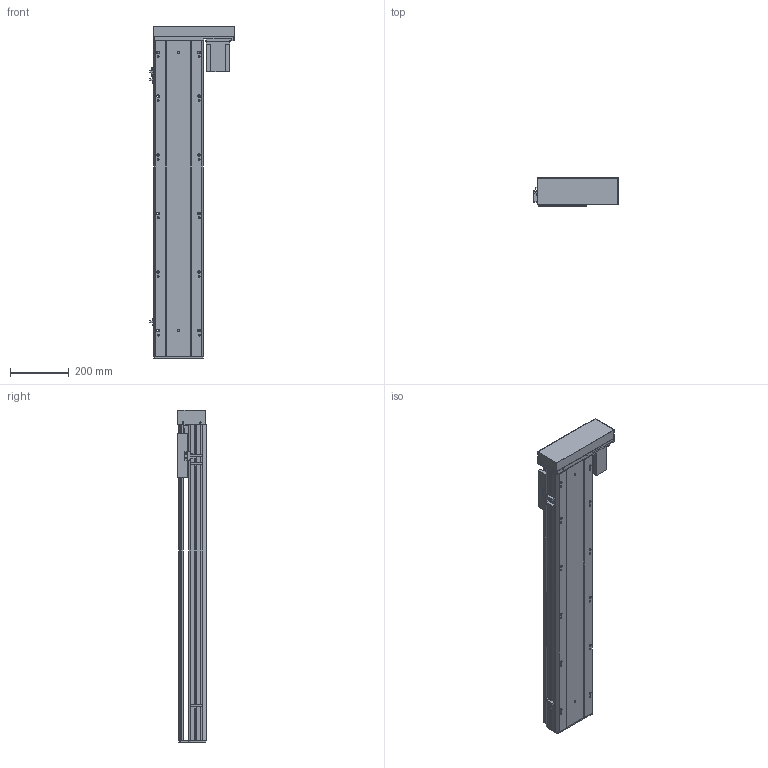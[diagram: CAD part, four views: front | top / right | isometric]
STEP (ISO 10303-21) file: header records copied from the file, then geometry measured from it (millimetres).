
FILE_DESCRIPTION (( 'STEP AP203' ), '1' );
FILE_NAME ('Y170-D10-S850-BR-P750W.STEP', '2020-01-21T12:27:09', ( '微软用户' ), ( '微软中国' ), 'SwSTEP 2.0', 'SolidWorks 2017', '' );
FILE_SCHEMA (( 'CONFIG_CONTROL_DESIGN' ));
Length unit declared in the file: millimetre
Products named in the file (12): Y-BL.BR-俋欶; Y--BL蟀諉啣-陔遴-; Y170耜裔--準---; YD-Y100-135-新外置传感挡片(通用）; 170--掛极-BR; Y100-135俋离換覜ん; Y170-BL-P750W楊擘啣; Y170-D10-S850-BR-P750W; 侂狟750W; EGH20賑輸_蕼偞; Y雄赽釱-耜蚾; Y170-陔遴奻裔-BR
Assembly tree (14 placements, depth 2):
  Y170-D10-S850-BR-P750W
    Y170耜裔--準---
    170--掛极-BR
    Y170-BL-P750W楊擘啣
    侂狟750W
    EGH20賑輸_蕼偞  x2
    Y雄赽釱-耜蚾
    Y170-陔遴奻裔-BR
    Y-BL.BR-俋欶
    Y--BL蟀諉啣-陔遴-
    YD-Y100-135-新外置传感挡片(通用）
    Y100-135俋离換覜ん  x3
Bounding box: 289 x 97 x 1133.5 mm (x, y, z)
Volume: 5525856.4 mm3; surface area: 1898500.4 mm2
Topology: 14 solids, 14 shells, 921 faces, 2594 edges, 1712 vertices
Faces by surface type: cylinder 462, plane 443, cone 16
Entity records: 29130 total; most frequent: CARTESIAN_POINT 5150, DIRECTION 4828, ORIENTED_EDGE 4684, EDGE_CURVE 2342, AXIS2_PLACEMENT_3D 1714, VERTEX_POINT 1556, VECTOR 1400, LINE 1400
